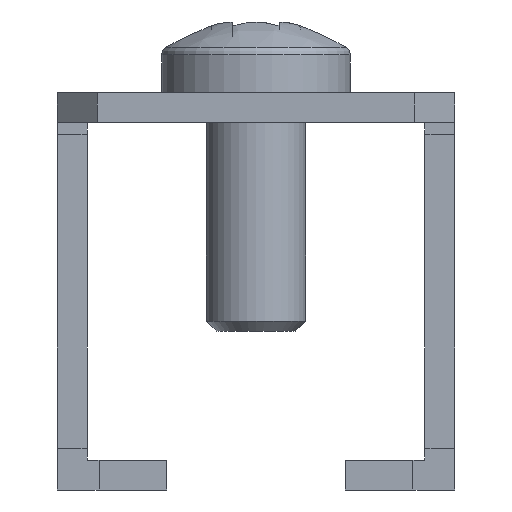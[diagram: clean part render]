
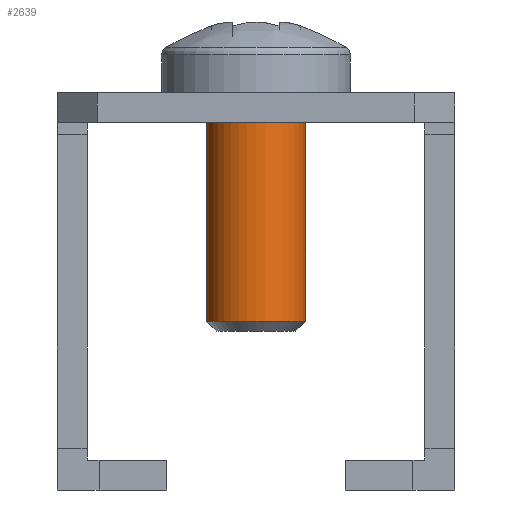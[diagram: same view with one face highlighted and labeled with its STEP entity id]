
A CAD part, left-side view. The second image highlights one B-rep face of the part: STEP entity #2639.
In plain terms, the highlighted cylindrical face has radius 2.5 mm (diameter 5 mm), a full revolution.
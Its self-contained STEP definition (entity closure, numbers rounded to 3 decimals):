
#2639 = ADVANCED_FACE('',(#2640),#2675,.T.);
#2640 = FACE_BOUND('',#2641,.T.);
#2641 = EDGE_LOOP('',(#2642,#2653,#2660,#2667,#2668));
#2642 = ORIENTED_EDGE('',*,*,#2643,.T.);
#2643 = EDGE_CURVE('',#2644,#2646,#2648,.T.);
#2644 = VERTEX_POINT('',#2645);
#2645 = CARTESIAN_POINT('',(15.2,0.,-2.5));
#2646 = VERTEX_POINT('',#2647);
#2647 = CARTESIAN_POINT('',(15.2,0.,2.5));
#2648 = CIRCLE('',#2649,2.5);
#2649 = AXIS2_PLACEMENT_3D('',#2650,#2651,#2652);
#2650 = CARTESIAN_POINT('',(15.2,0.,0.));
#2651 = DIRECTION('',(-1.,-0.,-0.));
#2652 = DIRECTION('',(0.,0.,-1.));
#2653 = ORIENTED_EDGE('',*,*,#2654,.T.);
#2654 = EDGE_CURVE('',#2646,#2655,#2657,.T.);
#2655 = VERTEX_POINT('',#2656);
#2656 = CARTESIAN_POINT('',(3.9,0.,2.5));
#2657 = B_SPLINE_CURVE_WITH_KNOTS('',1,(#2658,#2659),.UNSPECIFIED.,.F.,
  .F.,(2,2),(-40.6,-29.3),.PIECEWISE_BEZIER_KNOTS.);
#2658 = CARTESIAN_POINT('',(15.2,0.,2.5));
#2659 = CARTESIAN_POINT('',(3.9,0.,2.5));
#2660 = ORIENTED_EDGE('',*,*,#2661,.T.);
#2661 = EDGE_CURVE('',#2655,#2655,#2662,.T.);
#2662 = CIRCLE('',#2663,2.5);
#2663 = AXIS2_PLACEMENT_3D('',#2664,#2665,#2666);
#2664 = CARTESIAN_POINT('',(3.9,0.,0.));
#2665 = DIRECTION('',(1.,0.,-0.));
#2666 = DIRECTION('',(0.,0.,1.));
#2667 = ORIENTED_EDGE('',*,*,#2654,.F.);
#2668 = ORIENTED_EDGE('',*,*,#2669,.T.);
#2669 = EDGE_CURVE('',#2646,#2644,#2670,.T.);
#2670 = CIRCLE('',#2671,2.5);
#2671 = AXIS2_PLACEMENT_3D('',#2672,#2673,#2674);
#2672 = CARTESIAN_POINT('',(15.2,0.,0.));
#2673 = DIRECTION('',(-1.,-0.,-0.));
#2674 = DIRECTION('',(0.,0.,-1.));
#2675 = CYLINDRICAL_SURFACE('',#2676,2.5);
#2676 = AXIS2_PLACEMENT_3D('',#2677,#2678,#2679);
#2677 = CARTESIAN_POINT('',(-25.4,0.,0.));
#2678 = DIRECTION('',(-1.,-0.,-0.));
#2679 = DIRECTION('',(-0.,0.,1.));
